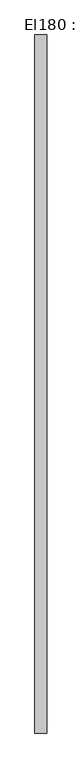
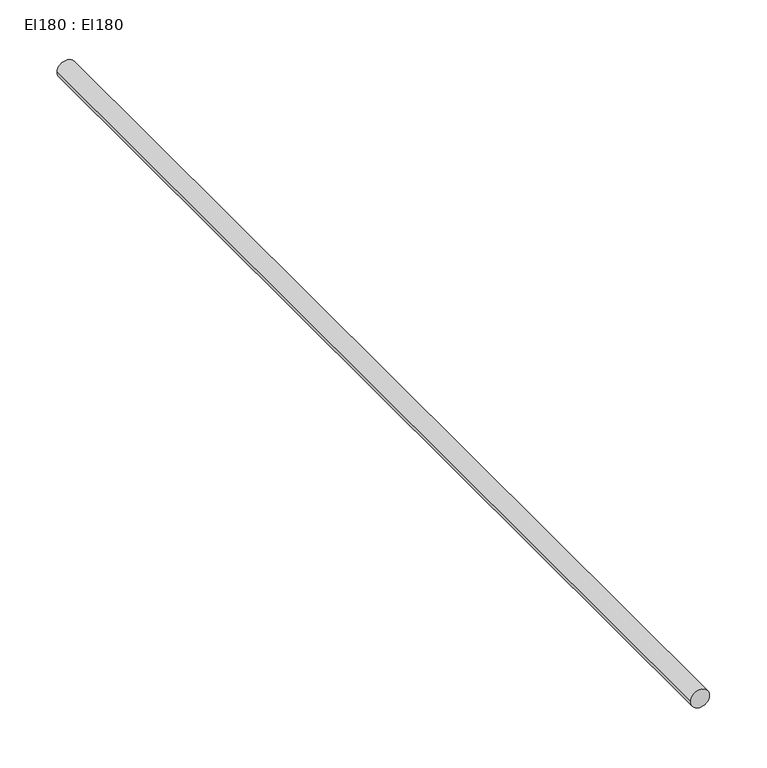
"""IFC4 building model written with IfcOpenShell, lengths in millimetres: cable carrier segment geometry, El180 : El180."""

from ifc_helpers import new_model, si_unit, point, frame, frame_2d, origin, place, context, project, spatial, circle_curve, trimmed, segment, composite_curve, outline, extrude, source, transform, mapped, element, save


def el180_el180_3388eeee(model_context):
    return source(origin(), model_context, "Body", "SweptSolid", [
        extrude(outline(composite_curve([segment(trimmed(circle_curve(frame_2d((300.0, 6550.0)), 9.5), [point((300.0, 6540.5))], [point((300.0, 6559.5))], False, "CARTESIAN"), True, "CONTINUOUS"), segment(trimmed(circle_curve(frame_2d((300.0, 6550.0)), 9.5), [point((300.0, 6559.5))], [point((300.0, 6540.5))], False, "CARTESIAN"), True, "CONTINUOUS")], self_intersect=False)), frame((0.0, 30923.312, 0.0), z_axis=(0.0, 1.0, 0.0), x_axis=(0.0, 0.0, 1.0)), (0.0, 0.0, 1.0), 1110.38),
    ])


if __name__ == "__main__":
    model = new_model("IFC4")
    model_context = context("Model", 3, world=origin())
    ifc_project = project(units=[si_unit("LENGTHUNIT", "METRE", prefix="MILLI")], contexts=[model_context])
    site = spatial("IfcSite", under=ifc_project)
    building = spatial("IfcBuilding", under=site)
    placement = place(None, origin())
    el180_el180_shape = el180_el180_3388eeee(model_context)
    element("IfcCableCarrierSegment", 1, ObjectType="El180 : El180", at=placement, inside=building, context=model_context, shape_type="MappedRepresentation", body=[
        mapped(el180_el180_shape, transform((0.0, 0.0, 0.0), x_axis=(1.0, 0.0, 0.0), y_axis=(0.0, 1.0, 0.0), z_axis=(0.0, 0.0, 1.0))),
    ])
    save(model, "model.ifc")
